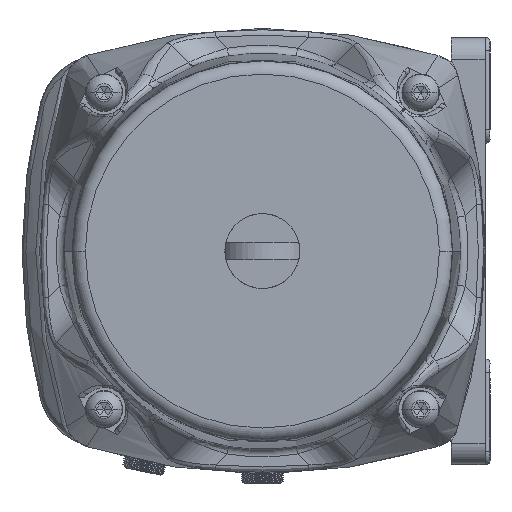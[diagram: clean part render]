
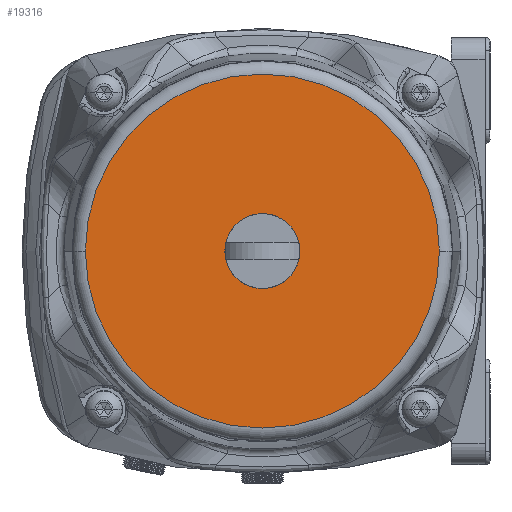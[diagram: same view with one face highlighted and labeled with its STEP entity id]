
A CAD part, front view. The second image highlights one B-rep face of the part: STEP entity #19316.
In plain terms, the highlighted planar face has unit normal (0, -1, 0).
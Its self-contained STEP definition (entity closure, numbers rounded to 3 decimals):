
#11907=CARTESIAN_POINT('',(0.,-152.,0.));
#11908=DIRECTION('',(0.,-1.,0.));
#11909=DIRECTION('',(-1.,0.,0.));
#11910=AXIS2_PLACEMENT_3D('',#11907,#11908,#11909);
#11912=CARTESIAN_POINT('',(0.,-152.,0.));
#11913=DIRECTION('',(0.,-1.,0.));
#11914=DIRECTION('',(1.,0.,0.));
#11915=AXIS2_PLACEMENT_3D('',#11912,#11913,#11914);
#11917=CARTESIAN_POINT('',(0.,-152.,0.));
#11918=DIRECTION('',(0.,1.,0.));
#11919=DIRECTION('',(-1.,0.,0.));
#11920=AXIS2_PLACEMENT_3D('',#11917,#11918,#11919);
#11922=CARTESIAN_POINT('',(0.,-152.,0.));
#11923=DIRECTION('',(0.,1.,0.));
#11924=DIRECTION('',(1.,0.,0.));
#11925=AXIS2_PLACEMENT_3D('',#11922,#11923,#11924);
#12085=CARTESIAN_POINT('',(-14.,-152.,0.));
#12086=CARTESIAN_POINT('',(14.,-152.,0.));
#12087=VERTEX_POINT('',#12085);
#12088=VERTEX_POINT('',#12086);
#12233=CARTESIAN_POINT('',(-66.098,-152.,0.));
#12234=CARTESIAN_POINT('',(66.098,-152.,0.));
#12235=VERTEX_POINT('',#12233);
#12236=VERTEX_POINT('',#12234);
#19301=CARTESIAN_POINT('',(0.,-152.,0.));
#19302=DIRECTION('',(0.,1.,0.));
#19303=DIRECTION('',(1.,0.,0.));
#19304=AXIS2_PLACEMENT_3D('',#19301,#19302,#19303);
#19305=PLANE('',#19304);
#19306=ORIENTED_EDGE('',*,*,#12956,.T.);
#19307=ORIENTED_EDGE('',*,*,#12971,.T.);
#19308=EDGE_LOOP('',(#19306,#19307));
#19309=FACE_OUTER_BOUND('',#19308,.F.);
#19311=ORIENTED_EDGE('',*,*,#19310,.T.);
#19313=ORIENTED_EDGE('',*,*,#19312,.T.);
#19314=EDGE_LOOP('',(#19311,#19313));
#19315=FACE_BOUND('',#19314,.F.);
#19316=ADVANCED_FACE('',(#19309,#19315),#19305,.F.);
#11911=CIRCLE('',#11910,14.);
#11916=CIRCLE('',#11915,14.);
#11921=CIRCLE('',#11920,66.098);
#11926=CIRCLE('',#11925,66.098);
#12956=EDGE_CURVE('',#12235,#12236,#11921,.T.);
#12971=EDGE_CURVE('',#12236,#12235,#11926,.T.);
#19310=EDGE_CURVE('',#12087,#12088,#11911,.T.);
#19312=EDGE_CURVE('',#12088,#12087,#11916,.T.);
